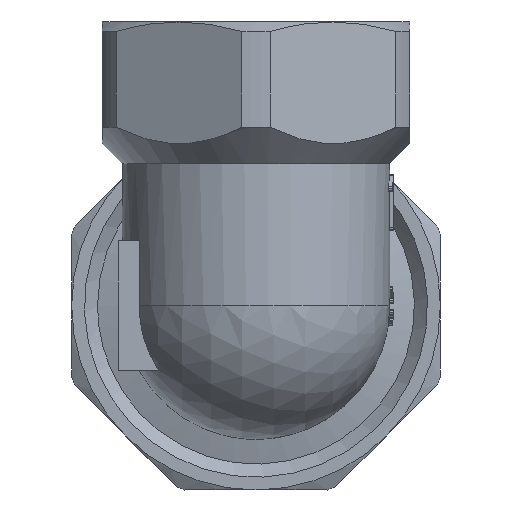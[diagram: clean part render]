
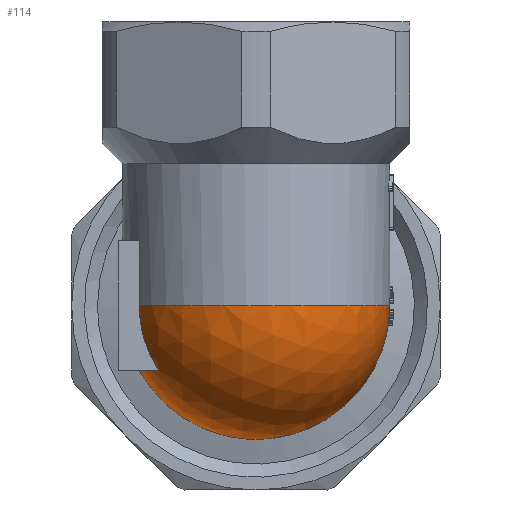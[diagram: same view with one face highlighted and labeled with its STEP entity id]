
A CAD part, front view. The second image highlights one B-rep face of the part: STEP entity #114.
In plain terms, the highlighted spherical face has radius 16.5 mm.
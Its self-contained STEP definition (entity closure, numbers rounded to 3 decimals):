
#114=ADVANCED_FACE('',(#962),#964,.T.);
#962=FACE_BOUND('',#963,.T.);
#963=EDGE_LOOP('',(#2077,#2078,#2079,#2080));
#964=SPHERICAL_SURFACE('',#965,16.5);
#965=AXIS2_PLACEMENT_3D('',#966,#967,#968);
#966=CARTESIAN_POINT('',(0.,0.,0.));
#967=DIRECTION('',(-1.,0.,0.));
#968=DIRECTION('',(0.,0.,-1.));
#2077=ORIENTED_EDGE('',*,*,#3159,.T.);
#2078=ORIENTED_EDGE('',*,*,#3160,.F.);
#2079=ORIENTED_EDGE('',*,*,#3161,.F.);
#2080=ORIENTED_EDGE('',*,*,#3075,.T.);
#3075=EDGE_CURVE('',#3663,#3664,#3665,.F.);
#3159=EDGE_CURVE('',#3664,#3819,#3820,.T.);
#3160=EDGE_CURVE('',#3821,#3819,#3822,.F.);
#3161=EDGE_CURVE('',#3663,#3821,#3823,.T.);
#3663=VERTEX_POINT('',#5420);
#3664=VERTEX_POINT('',#5421);
#3665=CIRCLE('',#5422,16.5);
#3819=VERTEX_POINT('',#6627);
#3820=CIRCLE('',#6628,16.5);
#3821=VERTEX_POINT('',#6632);
#3822=CIRCLE('',#6633,14.428);
#3823=CIRCLE('',#6637,14.428);
#5420=CARTESIAN_POINT('',(-14.428,0.,-8.005));
#5421=CARTESIAN_POINT('',(16.5,0.,0.));
#5422=AXIS2_PLACEMENT_3D('',#5423,#5424,#5425);
#5423=CARTESIAN_POINT('',(0.,0.,0.));
#5424=DIRECTION('',(0.,1.,0.));
#5425=DIRECTION('',(1.,0.,0.));
#6627=CARTESIAN_POINT('',(-14.428,-8.005,0.));
#6628=AXIS2_PLACEMENT_3D('',#6629,#6630,#6631);
#6629=CARTESIAN_POINT('',(0.,0.,0.));
#6630=DIRECTION('',(0.,0.,-1.));
#6631=DIRECTION('',(1.,0.,0.));
#6632=CARTESIAN_POINT('',(-12.004,-8.005,-8.005));
#6633=AXIS2_PLACEMENT_3D('',#6634,#6635,#6636);
#6634=CARTESIAN_POINT('',(0.,-8.005,0.));
#6635=DIRECTION('',(0.,-1.,0.));
#6636=DIRECTION('',(-1.,0.,0.));
#6637=AXIS2_PLACEMENT_3D('',#6638,#6639,#6640);
#6638=CARTESIAN_POINT('',(0.,0.,-8.005));
#6639=DIRECTION('',(0.,0.,1.));
#6640=DIRECTION('',(-1.,0.,0.));
